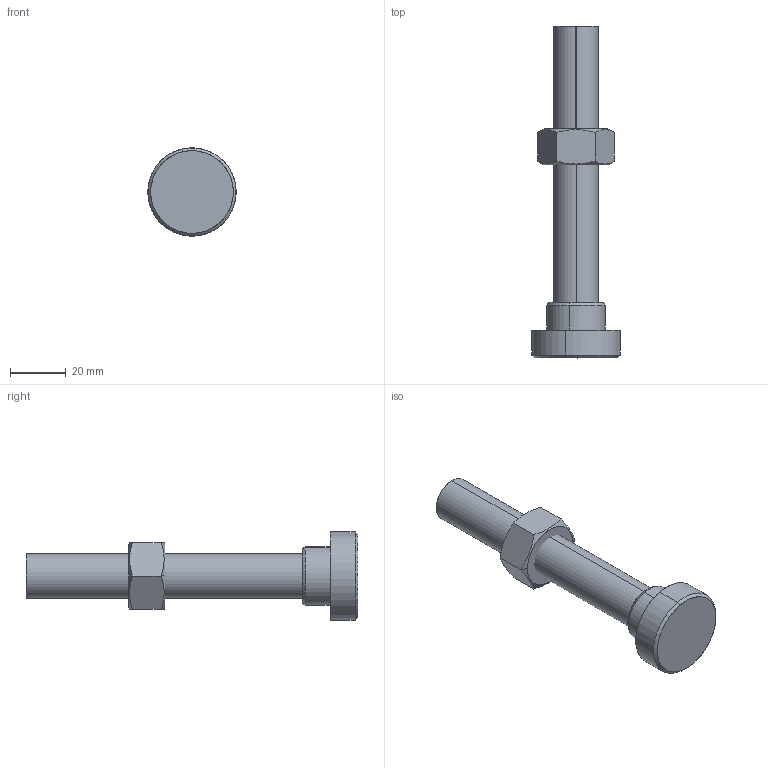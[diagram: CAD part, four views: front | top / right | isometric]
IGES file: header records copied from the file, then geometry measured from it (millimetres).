
Start section: SolidWorks IGES file using analytic representation for surfaces
Global section: file name: C:\Projetos\Ponteiras\PA\PA-M16.IGS; native system: SolidWorks 2012; preprocessor: SolidWorks 2012; author: Ricardo; date: 140305.143118; units: millimetre
Bounding box: 31.73 x 119.5 x 31.73 mm (x, y, z)
Surface area: 12114.9 mm2 (no closed solid volume)
Topology: 0 solids, 0 shells, 44 faces, 808 edges, 806 vertices
Faces by surface type: revolution 30, bspline 14
